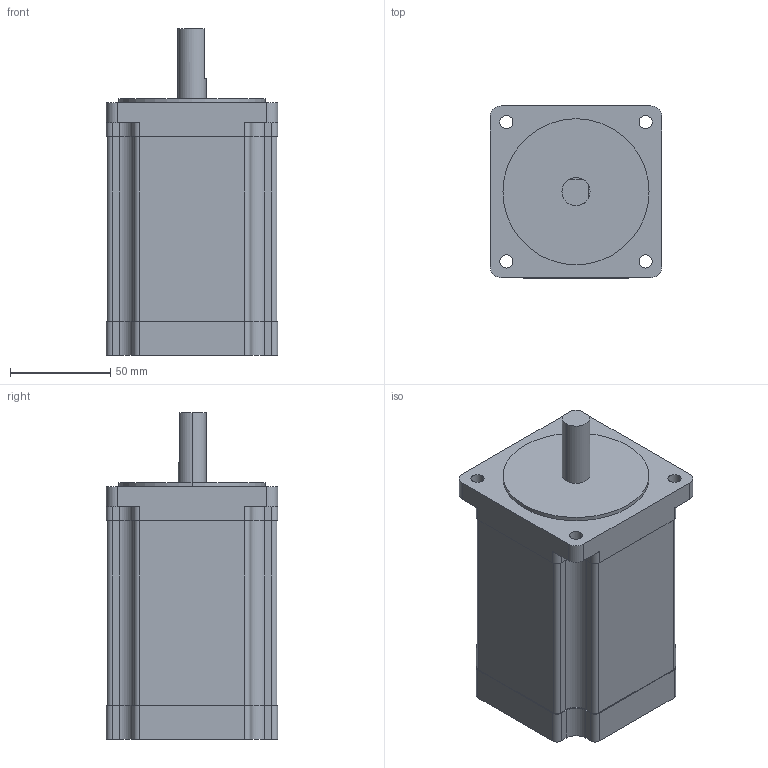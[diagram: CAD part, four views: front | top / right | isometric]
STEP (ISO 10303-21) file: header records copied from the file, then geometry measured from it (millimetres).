
FILE_DESCRIPTION (( 'STEP AP214' ), '1' );
FILE_NAME ('EXMK2913-02A.STEP', '2016-09-09T06:10:29', ( 'hoho' ), ( '' ), 'SwSTEP 2.0', 'SolidWorks 2013', '' );
FILE_SCHEMA (( 'AUTOMOTIVE_DESIGN' ));
Length unit declared in the file: millimetre
Products named in the file (1): EXMK2913-02A
Bounding box: 85.8 x 85.8 x 163 mm (x, y, z)
Volume: 843293.3 mm3; surface area: 57797.1 mm2
Topology: 1 solids, 1 shells, 102 faces, 288 edges, 192 vertices
Faces by surface type: cylinder 52, plane 50
Entity records: 3676 total; most frequent: DIRECTION 602, CARTESIAN_POINT 583, ORIENTED_EDGE 576, EDGE_CURVE 288, AXIS2_PLACEMENT_3D 211, VERTEX_POINT 192, VECTOR 180, LINE 180
